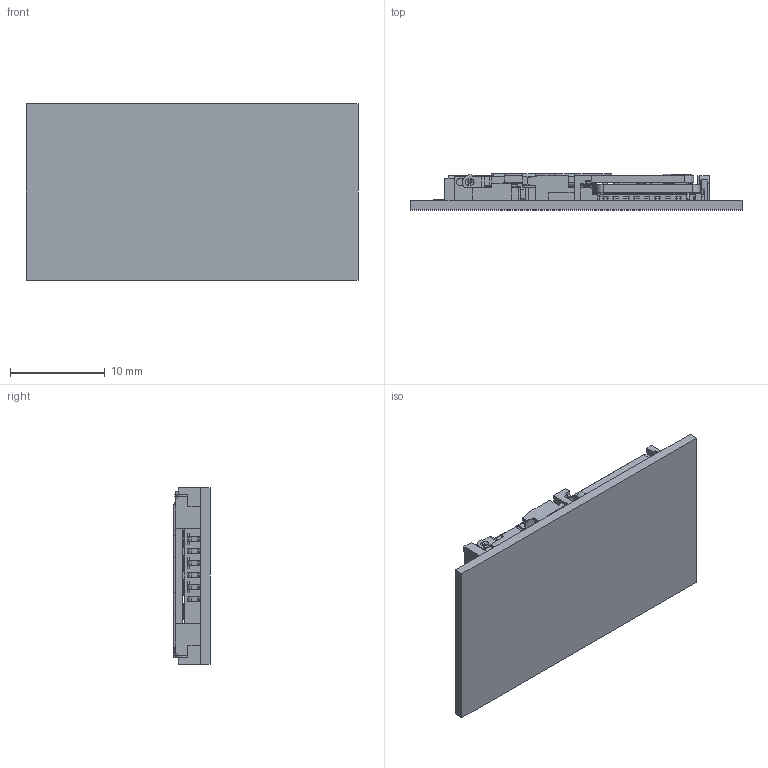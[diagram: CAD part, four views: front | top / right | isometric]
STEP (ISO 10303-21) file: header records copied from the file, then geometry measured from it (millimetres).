
FILE_DESCRIPTION((''),'2;1');
FILE_NAME('SIM-MICROSD-ACON_ASM','2008-06-30T',('GRA'),(''),'PRO/ENGINEER BY PARAMETRIC TECHNOLOGY CORPORATION, 2006170','PRO/ENGINEER BY PARAMETRIC TECHNOLOGY CORPORATION, 2006170','');
FILE_SCHEMA(('CONFIG_CONTROL_DESIGN'));
Products named in the file (2): _2IN1_HINGE_ASM_PRT; SIM-MICROSD-ACON_ASM
Assembly tree (1 placements, depth 2):
  SIM-MICROSD-ACON_ASM
    _2IN1_HINGE_ASM_PRT
Bounding box: 35 x 3.8 x 18.6 mm (x, y, z)
Volume: 1421.7 mm3; surface area: 4904.9 mm2
Topology: 16 solids, 48 shells, 3802 faces, 10327 edges, 6602 vertices
Faces by surface type: plane 3028, cylinder 578, bspline 95, sphere 44, torus 30, cone 25, extrusion 2
Entity records: 120858 total; most frequent: CARTESIAN_POINT 26131, ORIENTED_EDGE 20329, DIRECTION 18320, EDGE_CURVE 10228, VECTOR 8498, LINE 8496, VERTEX_POINT 6597, AXIS2_PLACEMENT_3D 4911
